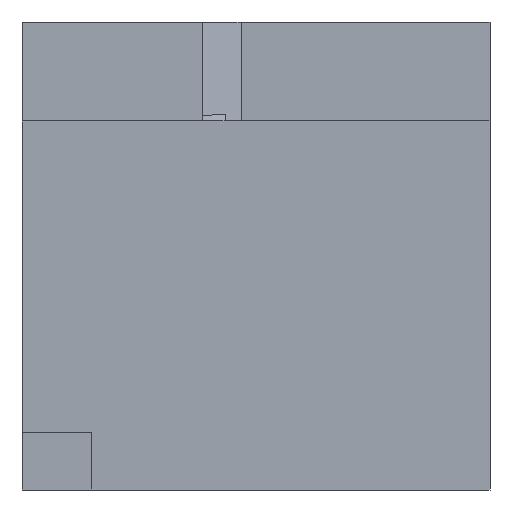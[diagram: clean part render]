
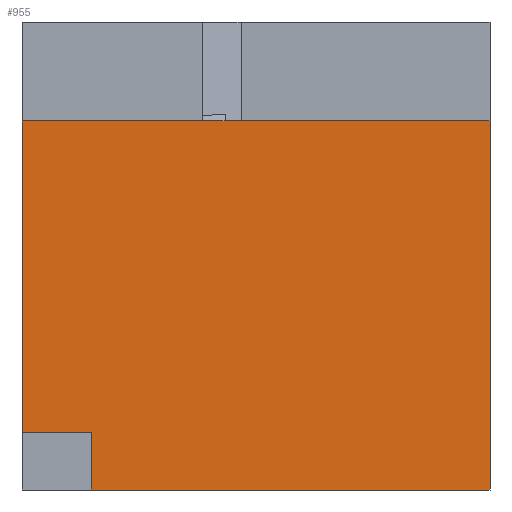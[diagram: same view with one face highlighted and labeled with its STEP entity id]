
A CAD part, left-side view. The second image highlights one B-rep face of the part: STEP entity #955.
In plain terms, the highlighted planar face has unit normal (-1, 0, 0).
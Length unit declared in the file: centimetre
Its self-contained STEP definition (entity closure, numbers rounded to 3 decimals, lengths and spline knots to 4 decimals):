
#93 = VERTEX_POINT ( 'NONE', #1272 ) ;
#102 = CARTESIAN_POINT ( 'NONE',  ( 0., 1000., 1000. ) ) ;
#135 = VECTOR ( 'NONE', #726, 100. ) ;
#137 = CARTESIAN_POINT ( 'NONE',  ( 0., 852.1335, 122.2922 ) ) ;
#166 = EDGE_CURVE ( 'NONE', #851, #555, #949, .T. ) ;
#168 = PLANE ( 'NONE',  #312 ) ;
#176 = ORIENTED_EDGE ( 'NONE', *, *, #1045, .T. ) ;
#186 = ORIENTED_EDGE ( 'NONE', *, *, #166, .F. ) ;
#204 = ORIENTED_EDGE ( 'NONE', *, *, #562, .F. ) ;
#225 = LINE ( 'NONE', #102, #668 ) ;
#247 = CARTESIAN_POINT ( 'NONE',  ( 0., 1000., 788.4649 ) ) ;
#312 = AXIS2_PLACEMENT_3D ( 'NONE', #604, #1423, #1055 ) ;
#318 = CARTESIAN_POINT ( 'NONE',  ( 0., 1000., 122.2922 ) ) ;
#335 = ORIENTED_EDGE ( 'NONE', *, *, #1153, .T. ) ;
#380 = EDGE_CURVE ( 'NONE', #436, #1469, #1159, .T. ) ;
#394 = VECTOR ( 'NONE', #907, 100. ) ;
#407 = CARTESIAN_POINT ( 'NONE',  ( 0., 852.1335, 0. ) ) ;
#411 = CARTESIAN_POINT ( 'NONE',  ( 0., 1000., 788.4649 ) ) ;
#436 = VERTEX_POINT ( 'NONE', #849 ) ;
#507 = CARTESIAN_POINT ( 'NONE',  ( 0., 0., 788.4649 ) ) ;
#555 = VERTEX_POINT ( 'NONE', #507 ) ;
#562 = EDGE_CURVE ( 'NONE', #1028, #436, #959, .T. ) ;
#604 = CARTESIAN_POINT ( 'NONE',  ( 0., 1000., 1000. ) ) ;
#613 = FACE_OUTER_BOUND ( 'NONE', #636, .T. ) ;
#636 = EDGE_LOOP ( 'NONE', ( #176, #683, #204, #335, #848, #186 ) ) ;
#668 = VECTOR ( 'NONE', #1344, 100. ) ;
#683 = ORIENTED_EDGE ( 'NONE', *, *, #380, .F. ) ;
#726 = DIRECTION ( 'NONE',  ( 0., -1., 0. ) ) ;
#741 = VECTOR ( 'NONE', #1284, 100. ) ;
#782 = LINE ( 'NONE', #1222, #1392 ) ;
#848 = ORIENTED_EDGE ( 'NONE', *, *, #1286, .F. ) ;
#849 = CARTESIAN_POINT ( 'NONE',  ( 0., 852.1335, 122.2922 ) ) ;
#851 = VERTEX_POINT ( 'NONE', #247 ) ;
#907 = DIRECTION ( 'NONE',  ( 0., 0., -1. ) ) ;
#949 = LINE ( 'NONE', #411, #135 ) ;
#955 = ADVANCED_FACE ( 'NONE', ( #613 ), #168, .F. ) ;
#959 = LINE ( 'NONE', #407, #1127 ) ;
#1028 = VERTEX_POINT ( 'NONE', #1451 ) ;
#1045 = EDGE_CURVE ( 'NONE', #851, #1469, #225, .T. ) ;
#1055 = DIRECTION ( 'NONE',  ( 0., 0., -1. ) ) ;
#1127 = VECTOR ( 'NONE', #1424, 100. ) ;
#1138 = CARTESIAN_POINT ( 'NONE',  ( 0., 0., 1000. ) ) ;
#1153 = EDGE_CURVE ( 'NONE', #1028, #93, #782, .T. ) ;
#1159 = LINE ( 'NONE', #137, #741 ) ;
#1222 = CARTESIAN_POINT ( 'NONE',  ( 0., 1000., 0. ) ) ;
#1258 = LINE ( 'NONE', #1138, #394 ) ;
#1272 = CARTESIAN_POINT ( 'NONE',  ( 0., 0., 0. ) ) ;
#1284 = DIRECTION ( 'NONE',  ( 0., 1., 0. ) ) ;
#1286 = EDGE_CURVE ( 'NONE', #555, #93, #1258, .T. ) ;
#1334 = DIRECTION ( 'NONE',  ( 0., -1., 0. ) ) ;
#1344 = DIRECTION ( 'NONE',  ( 0., 0., -1. ) ) ;
#1392 = VECTOR ( 'NONE', #1334, 100. ) ;
#1423 = DIRECTION ( 'NONE',  ( 1., 0., 0. ) ) ;
#1424 = DIRECTION ( 'NONE',  ( 0., 0., 1. ) ) ;
#1451 = CARTESIAN_POINT ( 'NONE',  ( 0., 852.1335, 0. ) ) ;
#1469 = VERTEX_POINT ( 'NONE', #318 ) ;
